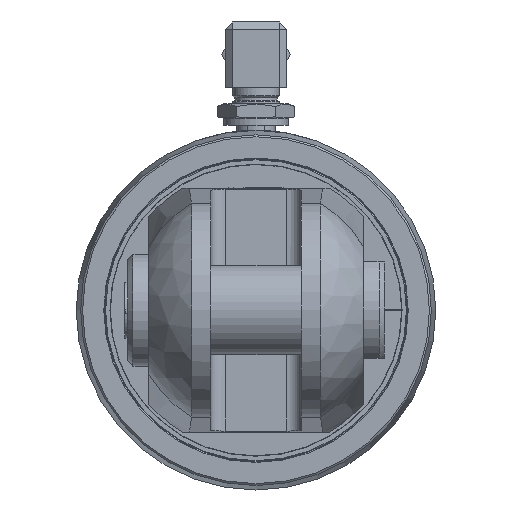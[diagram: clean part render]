
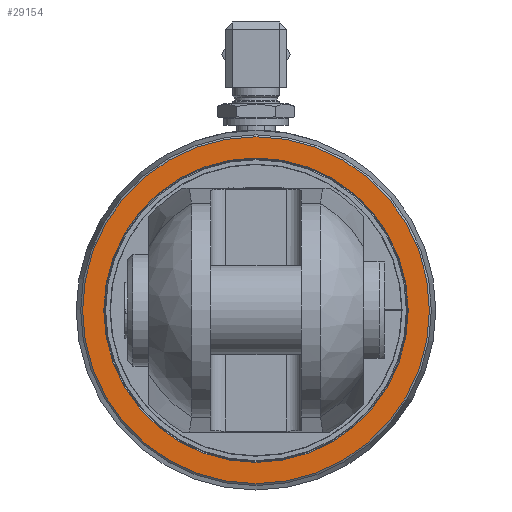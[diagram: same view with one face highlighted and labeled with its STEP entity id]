
A CAD part, left-side view. The second image highlights one B-rep face of the part: STEP entity #29154.
In plain terms, the highlighted planar face has unit normal (-1, 0, 0).
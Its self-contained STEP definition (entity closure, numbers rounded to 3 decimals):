
#162=CIRCLE('',#30876,49.288);
#164=CIRCLE('',#30880,43.25);
#1019=PLANE('',#30879);
#3497=FACE_BOUND('',#5527,.T.);
#3855=FACE_OUTER_BOUND('',#5526,.T.);
#5526=EDGE_LOOP('',(#21120));
#5527=EDGE_LOOP('',(#21121));
#13876=VERTEX_POINT('',#38057);
#13878=VERTEX_POINT('',#38063);
#16736=EDGE_CURVE('',#13876,#13876,#162,.T.);
#16738=EDGE_CURVE('',#13878,#13878,#164,.T.);
#21120=ORIENTED_EDGE('',*,*,#16736,.F.);
#21121=ORIENTED_EDGE('',*,*,#16738,.F.);
#29154=ADVANCED_FACE('',(#3855,#3497),#1019,.F.);
#30876=AXIS2_PLACEMENT_3D('',#38058,#32530,#32531);
#30879=AXIS2_PLACEMENT_3D('',#38062,#32536,#32537);
#30880=AXIS2_PLACEMENT_3D('',#38064,#32538,#32539);
#32530=DIRECTION('center_axis',(1.,0.,0.));
#32531=DIRECTION('ref_axis',(0.,-1.,0.));
#32536=DIRECTION('center_axis',(1.,0.,0.));
#32537=DIRECTION('ref_axis',(0.,0.,-1.));
#32538=DIRECTION('center_axis',(-1.,0.,0.));
#32539=DIRECTION('ref_axis',(0.,-1.,0.));
#38057=CARTESIAN_POINT('',(-610.5,49.288,0.));
#38058=CARTESIAN_POINT('Origin',(-610.5,0.,0.));
#38062=CARTESIAN_POINT('Origin',(-610.5,0.,0.));
#38063=CARTESIAN_POINT('',(-610.5,43.25,0.));
#38064=CARTESIAN_POINT('Origin',(-610.5,0.,0.));
